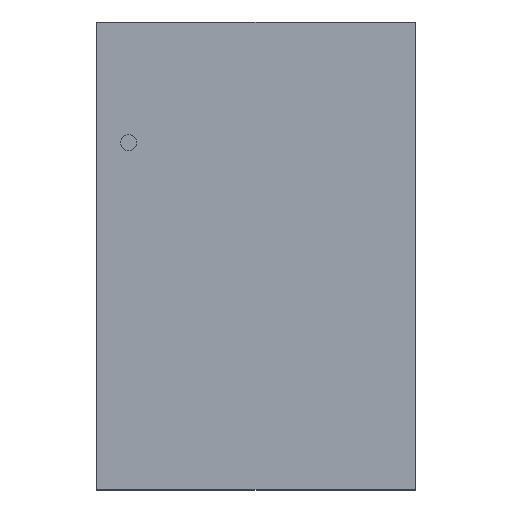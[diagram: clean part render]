
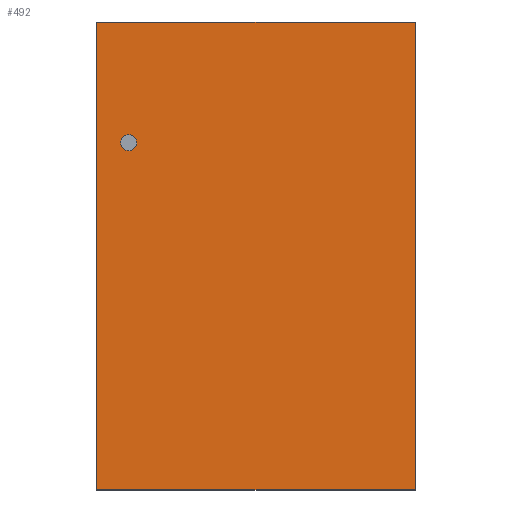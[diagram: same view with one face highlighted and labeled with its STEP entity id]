
A CAD part, top view. The second image highlights one B-rep face of the part: STEP entity #492.
In plain terms, the highlighted planar face has unit normal (0, 0, 1).
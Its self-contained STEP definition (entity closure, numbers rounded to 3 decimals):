
#268=CARTESIAN_POINT('',(1.054,-1.549,0.737));
#267=VERTEX_POINT('',#268);
#278=CARTESIAN_POINT('',(-1.054,-1.549,0.737));
#277=VERTEX_POINT('',#278);
#276=EDGE_CURVE('',#277,#267,#281,.T.);
#281=LINE('',#278,#283);
#283=VECTOR('',#284,2.108);
#284=DIRECTION('',(1.0,0.0,0.0));
#317=CARTESIAN_POINT('',(1.054,1.549,0.737));
#316=VERTEX_POINT('',#317);
#325=EDGE_CURVE('',#267,#316,#330,.T.);
#330=LINE('',#268,#332);
#332=VECTOR('',#333,3.099);
#333=DIRECTION('',(0.0,1.0,0.0));
#366=CARTESIAN_POINT('',(-1.054,1.549,0.737));
#365=VERTEX_POINT('',#366);
#374=EDGE_CURVE('',#316,#365,#379,.T.);
#379=LINE('',#317,#381);
#381=VECTOR('',#382,2.108);
#382=DIRECTION('',(-1.0,0.0,0.0));
#423=EDGE_CURVE('',#365,#277,#428,.T.);
#428=LINE('',#366,#430);
#430=VECTOR('',#431,3.099);
#431=DIRECTION('',(0.0,-1.0,0.0));
#492=ADVANCED_FACE('',(#498),#493,.T.);
#493=PLANE('',#494);
#494=AXIS2_PLACEMENT_3D('',#495,#496,#497);
#495=CARTESIAN_POINT('',(-1.054,-1.549,0.737));
#496=DIRECTION('',(0.0,0.0,1.0));
#497=DIRECTION('',(0.,1.,0.));
#498=FACE_OUTER_BOUND('',#499,.T.);
#499=EDGE_LOOP('',(#500,#510,#520,#530));
#500=ORIENTED_EDGE('',*,*,#276,.T.);
#510=ORIENTED_EDGE('',*,*,#325,.T.);
#520=ORIENTED_EDGE('',*,*,#374,.T.);
#530=ORIENTED_EDGE('',*,*,#423,.T.);
